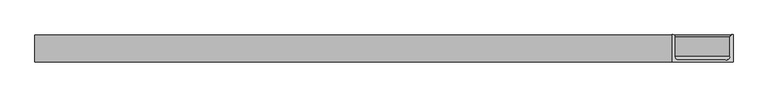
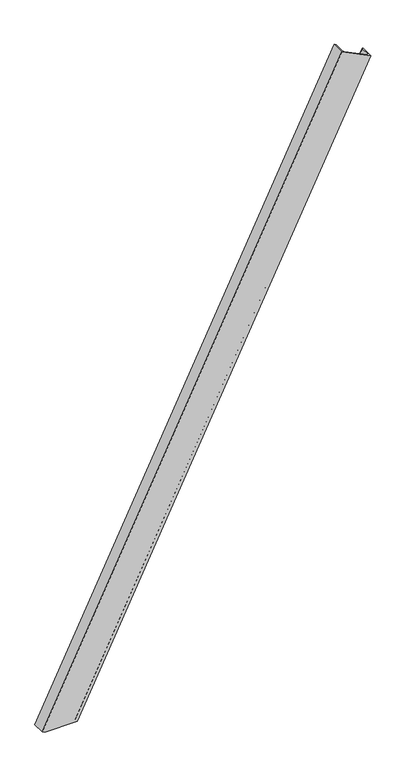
"""IFC4 building model written with IfcOpenShell, lengths in millimetres: proxy geometry, ЛМ_Швеллер_16П_(ОбМодель_Общ) : 16П."""

import ifcopenshell
import ifcopenshell.guid

model = None  # the IFC model being written
_history = None  # IfcOwnerHistory: only IFC2X3 demands one
_inside = {}  # id of a spatial element -> (the spatial element, [elements in it])
_under = {}  # id of a project, library or spatial element -> (it, [spatial elements below it])
_declared = {}  # id of a project -> (the project, [libraries it declares])
_typed = {}  # id of a type object -> (the type object, [elements of that type])
_made_of = {}  # id of a material, layer set ... -> (it, [elements and type objects made of it])


def new_model(schema):
    """Start an empty IFC model of exactly this schema.

    Asked for "IFC4X3", IfcOpenShell would pick the latest addendum, in which some entities
    have other attributes; the version numbers below select the first issue.
    IFC2X3 requires an IfcOwnerHistory on every rooted entity: one is made here for all.
    """
    global model, _history
    if schema == "IFC4X3":
        model = ifcopenshell.file(schema_version=(4, 3, 0, 0))
    else:
        model = ifcopenshell.file(schema=schema)
    _inside.clear()
    _under.clear()
    _declared.clear()
    _typed.clear()
    _made_of.clear()
    _history = None
    if model.schema == "IFC2X3":
        org = make("IfcOrganization", Name="unknown")
        user = make(
            "IfcPersonAndOrganization",
            ThePerson=make("IfcPerson", FamilyName="unknown"),
            TheOrganization=org,
        )
        app = make(
            "IfcApplication",
            ApplicationDeveloper=org,
            Version="unknown",
            ApplicationFullName="unknown",
            ApplicationIdentifier="unknown",
        )
        _history = make(
            "IfcOwnerHistory",
            OwningUser=user,
            OwningApplication=app,
            ChangeAction="ADDED",
            CreationDate=0,
        )
    return model


def make(cls, **values):
    """One entity of the class cls with the attributes given. An attribute that is None is left unset."""
    return model.create_entity(
        cls, **{name: value for name, value in values.items() if value is not None}
    )


def rooted(cls, **values):
    """An entity with a GlobalId (a new one), such as an element, a storey or a relation."""
    return make(cls, GlobalId=ifcopenshell.guid.new(), OwnerHistory=_history, **values)


def si_unit(unit_type, name, prefix=None):
    """IfcSIUnit, for example si_unit("LENGTHUNIT", "METRE", prefix="MILLI")."""
    return make("IfcSIUnit", UnitType=unit_type, Prefix=prefix, Name=name)


def assignment(units):
    """IfcUnitAssignment: the units of a project."""
    return None if units is None else make("IfcUnitAssignment", Units=units)


def point(xyz):
    """IfcCartesianPoint."""
    return None if xyz is None else make("IfcCartesianPoint", Coordinates=xyz)


def direction(xyz):
    """IfcDirection."""
    return None if xyz is None else make("IfcDirection", DirectionRatios=xyz)


def frame(location, z_axis=None, x_axis=None):
    """IfcAxis2Placement3D, a coordinate frame: its origin and axes. An axis left out is left unset."""
    return make(
        "IfcAxis2Placement3D",
        Location=point(location),
        Axis=direction(z_axis),
        RefDirection=direction(x_axis),
    )


def origin():
    """The frame at (0, 0, 0) with its axes left unset."""
    return frame((0.0, 0.0, 0.0))


def place(relative_to, where):
    """IfcLocalPlacement: puts the frame where relative to a parent placement (None: the world)."""
    return make(
        "IfcLocalPlacement", PlacementRelTo=relative_to, RelativePlacement=where
    )


def context(
    kind, dimensions, precision=None, world=None, true_north=None, identifier=None
):
    """IfcGeometricRepresentationContext, for example the 3D "Model" context."""
    return make(
        "IfcGeometricRepresentationContext",
        ContextIdentifier=identifier,
        ContextType=kind,
        CoordinateSpaceDimension=dimensions,
        Precision=precision,
        WorldCoordinateSystem=world,
        TrueNorth=true_north,
    )


def project(units=None, contexts=None):
    """IfcProject with its units and contexts."""
    return rooted(
        "IfcProject",
        Name="project",
        RepresentationContexts=contexts,
        UnitsInContext=assignment(units),
    )


def spatial(cls, under=None, at=None, **own):
    """A site, building, storey or space (cls), placed at a placement, below another one or the project."""
    s = rooted(cls, ObjectPlacement=at, **own)
    if under is not None:
        _under.setdefault(under.id(), (under, []))[1].append(s)
    return s


def polyline(points):
    """IfcPolyline through the points."""
    return make("IfcPolyline", Points=[point(p) for p in points])


def circle_curve(where, radius):
    """IfcCircle in the frame where."""
    return make("IfcCircle", Position=where, Radius=radius)


def ellipse_curve(where, semi_axis1, semi_axis2):
    """IfcEllipse in the frame where."""
    return make(
        "IfcEllipse", Position=where, SemiAxis1=semi_axis1, SemiAxis2=semi_axis2
    )


def shape(context_of_items, identifier, shape_type, items):
    """IfcShapeRepresentation: the items that make up one representation, for example the "Body"."""
    return make(
        "IfcShapeRepresentation",
        ContextOfItems=context_of_items,
        RepresentationIdentifier=identifier,
        RepresentationType=shape_type,
        Items=items,
    )


def source(mapping_origin, context_of_items, identifier, shape_type, items):
    """IfcRepresentationMap: a shape defined once, which mapped items show again and again."""
    return make(
        "IfcRepresentationMap",
        MappingOrigin=mapping_origin,
        MappedRepresentation=shape(context_of_items, identifier, shape_type, items),
    )


def transform(
    local_origin,
    x_axis=None,
    y_axis=None,
    z_axis=None,
    scale=None,
    scale2=None,
    scale3=None,
    uniform=True,
):
    """IfcCartesianTransformationOperator3D, or its non-uniform kind. x_axis, y_axis, z_axis: its Axis1, 2, 3."""
    if uniform:
        return make(
            "IfcCartesianTransformationOperator3D",
            Axis1=direction(x_axis),
            Axis2=direction(y_axis),
            LocalOrigin=point(local_origin),
            Scale=scale,
            Axis3=direction(z_axis),
        )
    return make(
        "IfcCartesianTransformationOperator3DnonUniform",
        Axis1=direction(x_axis),
        Axis2=direction(y_axis),
        LocalOrigin=point(local_origin),
        Scale=scale,
        Axis3=direction(z_axis),
        Scale2=scale2,
        Scale3=scale3,
    )


def mapped(mapping_source, mapping_target):
    """IfcMappedItem: shows the shape of a source again, moved by a transform."""
    return make(
        "IfcMappedItem", MappingSource=mapping_source, MappingTarget=mapping_target
    )


def made_of(thing, what):
    """Note that an element or type object is made of a material, layer set ...; save() writes the relation."""
    if what is not None:
        _made_of.setdefault(what.id(), (what, []))[1].append(thing)
    return thing


def element(
    cls,
    number,
    at=None,
    inside=None,
    cuts=None,
    type_object=None,
    material=None,
    context=None,
    identifier="Body",
    shape_type=None,
    held_by="IfcProductDefinitionShape",
    body=None,
    shapes=None,
    **own,
):
    """One element of the class cls, such as IfcWall. Its Tag is "e" and its number.

    at: its placement. inside: the storey or other place that contains it. cuts: it is an
    opening in that element (IfcRelVoidsElement). A single representation is given by context,
    identifier, shape_type and body (its items); several are given by shapes. held_by: the class
    of the entity that holds the representations. save() writes the other relations.
    """
    e = rooted(cls, Tag="e%d" % number, ObjectPlacement=at, **own)
    if body is not None:
        shapes = [shape(context, identifier, shape_type, body)]
    if shapes is not None:
        e.Representation = make(held_by, Representations=shapes)
    if inside is not None:
        _inside.setdefault(inside.id(), (inside, []))[1].append(e)
    if cuts is not None:
        rooted(
            "IfcRelVoidsElement", RelatingBuildingElement=cuts, RelatedOpeningElement=e
        )
    if type_object is not None:
        _typed.setdefault(type_object.id(), (type_object, []))[1].append(e)
    return made_of(e, material)


def aggregate(whole, parts):
    """IfcRelAggregates: a whole, such as a stair, and the parts it consists of."""
    return rooted("IfcRelAggregates", RelatingObject=whole, RelatedObjects=parts)


def save(model, path):
    """Write the relations noted so far, then the file.

    IfcRelAggregates (storeys below a building ...), IfcRelContainedInSpatialStructure (elements
    in a storey), IfcRelDefinesByType, IfcRelAssociatesMaterial and IfcRelDeclares: one each for
    every whole, place, type object, material and project.
    """
    for whole, parts in _under.values():
        aggregate(whole, parts)
    for where, things in _inside.values():
        rooted(
            "IfcRelContainedInSpatialStructure",
            RelatedElements=things,
            RelatingStructure=where,
        )
    for kind, things in _typed.values():
        rooted("IfcRelDefinesByType", RelatedObjects=things, RelatingType=kind)
    for what, things in _made_of.values():
        rooted("IfcRelAssociatesMaterial", RelatedObjects=things, RelatingMaterial=what)
    for by, libraries in _declared.values():
        rooted("IfcRelDeclares", RelatingContext=by, RelatedDefinitions=libraries)
    model.write(path)


def plane_surface(at):
    """IfcPlane: the flat surface through the origin of the frame at, square to its z axis."""
    return make("IfcPlane", Position=at)


def cylinder_surface(at, radius):
    """IfcCylindricalSurface: all points at the distance radius from the z axis of the frame at."""
    return make("IfcCylindricalSurface", Position=at, Radius=radius)


def revolved_surface(curve, axis_point, axis_direction):
    """IfcSurfaceOfRevolution: the curve turned about the line through axis_point along axis_direction."""
    return make(
        "IfcSurfaceOfRevolution",
        SweptCurve=make("IfcArbitraryOpenProfileDef", ProfileType="CURVE", Curve=curve),
        AxisPosition=make("IfcAxis1Placement", Location=point(axis_point), Axis=direction(axis_direction)),
    )


def advanced_brep(points, edges, surfaces, faces):
    """IfcAdvancedBrep: a solid bounded by faces that lie on surfaces and meet in shared edges.

    An edge is (start, end): straight between two places in points (the first is 0);
    or (start, end, curve); or (start, end, curve, False) where it runs against its curve.
    A face is (place in surfaces, loops), or (place, loops, False) where it looks against
    its surface's normal. A loop lists edges by number (the first is 1), with a minus sign
    where the edge is run from its end to its start. The first loop is the outer one.
    """
    corners = [point(p) for p in points]
    vertices = [make("IfcVertexPoint", VertexGeometry=c) for c in corners]
    made = []
    for start, end, *more in edges:
        made.append(
            make(
                "IfcEdgeCurve",
                EdgeStart=vertices[start],
                EdgeEnd=vertices[end],
                EdgeGeometry=more[0] if more else make("IfcPolyline", Points=[corners[start], corners[end]]),
                SameSense=more[1] if len(more) > 1 else True,
            )
        )
    hull = []
    for where, loops, *sense in faces:
        bounds = []
        for j, loop in enumerate(loops):
            ring = [make("IfcOrientedEdge", EdgeElement=made[abs(k) - 1], Orientation=k > 0) for k in loop]
            bounds.append(
                make(
                    "IfcFaceOuterBound" if j == 0 else "IfcFaceBound",
                    Bound=make("IfcEdgeLoop", EdgeList=ring),
                    Orientation=True,
                )
            )
        hull.append(make("IfcAdvancedFace", Bounds=bounds, FaceSurface=surfaces[where], SameSense=sense[0] if sense else True))
    return make("IfcAdvancedBrep", Outer=make("IfcClosedShell", CfsFaces=hull))


def generic_models_43c456f0(model_context):
    return source(origin(), model_context, "Body", "AdvancedBrep", [
        advanced_brep(
        [(0.0, 64.3, 12.301823), (0.0, 0.3, 12.301823), (1490.4618991, 0.3, 3068.2015805), (1490.4618991, 64.3, 3068.2015805), (3.0558998, 64.3, 10.8113612), (1493.5177988, 64.3, 3066.7111186), (7.54987, 59.3, 8.6195054), (1498.0117691, 59.3, 3064.5192628), (7.54987, 13.8, 8.6195054), (1498.0117691, 13.8, 3064.5192628), (1505.6515185, 5.3, 3060.7931081), (15.7293683, 5.3, 6.0), (12.920652, 5.6835282, 6.0), (1619.0793271, 5.3, 3005.4706694), (156.1397332, 5.3, 6.0), (1626.7190765, 13.8, 3001.7445146), (165.5968497, 13.8, 6.0), (1626.7190765, 59.3, 3001.7445146), (165.5968497, 59.3, 6.0), (1631.2130467, 64.3, 2999.5526589), (171.1598594, 64.3, 6.0), (1634.2689465, 64.3, 2998.062197), (174.942706, 64.3, 6.0), (1634.2689465, 0.3, 2998.062197), (174.942706, 0.3, 6.0), (12.920652, 0.3, 6.0)],
        [
            (0, 1),
            (1, 2),
            (2, 3),
            (3, 0),
            (4, 0),
            (3, 5),
            (5, 4),
            (6, 4, circle_curve(frame((3.0558998, 59.3, 10.8113612), z_axis=(0.43837114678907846, 0.0, 0.8987940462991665), x_axis=(0.0, 1.0, 0.0)), 5.0)),
            (5, 7, circle_curve(frame((1493.5177988, 59.3, 3066.7111186), z_axis=(-0.43837114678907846, 0.0, -0.8987940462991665), x_axis=(0.0, 1.0, 0.0)), 5.0)),
            (7, 6),
            (8, 6),
            (7, 9),
            (9, 8),
            (9, 10, circle_curve(frame((1505.6515185, 13.8, 3060.7931081), z_axis=(0.43837114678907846, 0.0, 0.8987940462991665), x_axis=(0.0, 1.0, 0.0)), 8.5)),
            (10, 11),
            (11, 12, ellipse_curve(frame((15.7293683, 13.8, 6.0), z_axis=(0.0, 0.0, -1.0), x_axis=(1.0, 0.0, 0.0)), 9.4571165, 8.5)),
            (12, 8, circle_curve(frame((15.1896194, 13.8, 4.8933507), z_axis=(-0.43837114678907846, 0.0, -0.8987940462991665), x_axis=(0.0, 1.0, 0.0)), 8.5)),
            (10, 13),
            (13, 14),
            (14, 11),
            (13, 15, circle_curve(frame((1619.0793271, 13.8, 3005.4706694), z_axis=(0.43837114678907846, 0.0, 0.8987940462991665), x_axis=(0.0, 1.0, 0.0)), 8.5)),
            (15, 16),
            (16, 14, ellipse_curve(frame((156.1397332, 13.8, 6.0), z_axis=(0.0, 0.0, -1.0), x_axis=(1.0, 0.0, 0.0)), 9.4571165, 8.5)),
            (15, 17),
            (17, 18),
            (18, 16),
            (17, 19, circle_curve(frame((1631.2130467, 59.3, 2999.5526589), z_axis=(-0.43837114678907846, 0.0, -0.8987940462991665), x_axis=(0.0, 1.0, 0.0)), 5.0)),
            (19, 20),
            (20, 18, ellipse_curve(frame((171.1598594, 59.3, 6.0), z_axis=(0.0, 0.0, 1.0), x_axis=(-1.0, 0.0, 0.0)), 5.5630097, 5.0)),
            (19, 21),
            (21, 22),
            (22, 20),
            (21, 23),
            (23, 24),
            (24, 22),
            (23, 2),
            (1, 25),
            (25, 24),
            (25, 12),
        ],
        [
            plane_surface(frame((0.0, 0.3, 12.301823), z_axis=(-0.8987940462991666, 0.0, 0.4383711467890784), x_axis=(0.4383711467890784, 0.0, 0.8987940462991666))),
            plane_surface(frame((0.0, 64.3, 12.301823), z_axis=(0.0, 1.0000000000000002, 0.0), x_axis=(0.4383711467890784, 0.0, 0.8987940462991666))),
            cylinder_surface(frame((3.0558998, 59.3, 10.8113612), z_axis=(-0.43837114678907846, 0.0, -0.8987940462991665), x_axis=(0.0, 1.0, 0.0)), 5.0),
            plane_surface(frame((7.54987, 59.3, 8.6195054), z_axis=(0.8987940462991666, 0.0, -0.43837114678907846), x_axis=(0.43837114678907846, 0.0, 0.8987940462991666))),
            revolved_surface(polyline([(1505.6515184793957, 22.3, 3060.7931081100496), (13.91200122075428, 22.3, 2.2738452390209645)]), (15.1896194, 13.8, 4.8933507), (0.43837114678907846, 0.0, 0.8987940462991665)),
            plane_surface(frame((15.1896194, 5.3, 4.8933507), z_axis=(0.0, 1.0000000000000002, 0.0), x_axis=(0.43837114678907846, 0.0, 0.8987940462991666))),
            revolved_surface(polyline([(1619.0793271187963, 22.3, 3005.4706693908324), (154.3223661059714, 22.3, 2.2738452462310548)]), (128.617428, 13.8, -50.4290881), (0.43837114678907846, 0.0, 0.8987940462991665)),
            plane_surface(frame((136.2571774, 13.8, -54.1552428), z_axis=(-0.8987940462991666, 0.0, 0.43837114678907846), x_axis=(0.43837114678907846, 0.0, 0.8987940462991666))),
            cylinder_surface(frame((140.7511477, 59.3, -56.3470985), z_axis=(-0.43837114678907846, 0.0, -0.8987940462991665), x_axis=(0.0, 1.0, 0.0)), 5.0),
            plane_surface(frame((140.7511477, 64.3, -56.3470985), z_axis=(0.0, 1.0000000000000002, 0.0), x_axis=(0.4383711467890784, 0.0, 0.8987940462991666))),
            plane_surface(frame((143.8070474, 64.3, -57.8375604), z_axis=(0.8987940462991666, 0.0, -0.43837114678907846), x_axis=(0.43837114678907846, 0.0, 0.8987940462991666))),
            plane_surface(frame((143.8070474, 0.3, -57.8375604), z_axis=(0.0, -1.0000000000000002, 0.0), x_axis=(0.43837114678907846, 0.0, 0.8987940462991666))),
            plane_surface(frame((226.27417, 0.0, 6.0), z_axis=(0.0, 0.0, -1.0), x_axis=(0.0, 1.0, 0.0))),
            plane_surface(frame((1490.4618991, 0.0, 3068.2015805), z_axis=(0.43837114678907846, 0.0, 0.8987940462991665), x_axis=(0.0, -1.0, 0.0))),
            plane_surface(frame((0.0, 0.0, 12.301823), z_axis=(-0.43837114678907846, 0.0, -0.8987940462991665), x_axis=(0.0, -1.0, 0.0))),
        ],
        [
            (0, [[1, 2, 3, 4]]),
            (1, [[5, -4, 6, 7]]),
            (2, [[8, -7, 9, 10]]),
            (3, [[11, -10, 12, 13]]),
            (4, [[14, 15, 16, 17, -13]]),
            (5, [[18, 19, 20, -15]]),
            (6, [[21, 22, 23, -19]]),
            (7, [[24, 25, 26, -22]]),
            (8, [[27, 28, 29, -25]]),
            (9, [[30, 31, 32, -28]]),
            (10, [[33, 34, 35, -31]]),
            (11, [[36, -2, 37, 38, -34]]),
            (12, [[39, -16, -20, -23, -26, -29, -32, -35, -38]]),
            (13, [[-36, -33, -30, -27, -24, -21, -18, -14, -12, -9, -6, -3]]),
            (14, [[-1, -5, -8, -11, -17, -39, -37]]),
        ],
    ),
    ])


if __name__ == "__main__":
    model = new_model("IFC4")
    model_context = context("Model", 3, world=origin())
    ifc_project = project(units=[si_unit("LENGTHUNIT", "METRE", prefix="MILLI")], contexts=[model_context])
    site = spatial("IfcSite", under=ifc_project)
    building = spatial("IfcBuilding", under=site)
    placement = place(None, origin())
    generic_models_shape = generic_models_43c456f0(model_context)
    element("IfcBuildingElementProxy", 1, Name="ЛМ_Швеллер_16П_(ОбМодель_Общ) : 16П", ObjectType="ЛМ_Швеллер_16П_(ОбМодель_Общ) : 16П", at=placement, inside=building, context=model_context, shape_type="MappedRepresentation", body=[
        mapped(generic_models_shape, transform((0.0, 0.0, 0.0), x_axis=(1.0, 0.0, 0.0), y_axis=(0.0, 1.0, 0.0), z_axis=(0.0, 0.0, 1.0))),
    ])
    save(model, "model.ifc")
